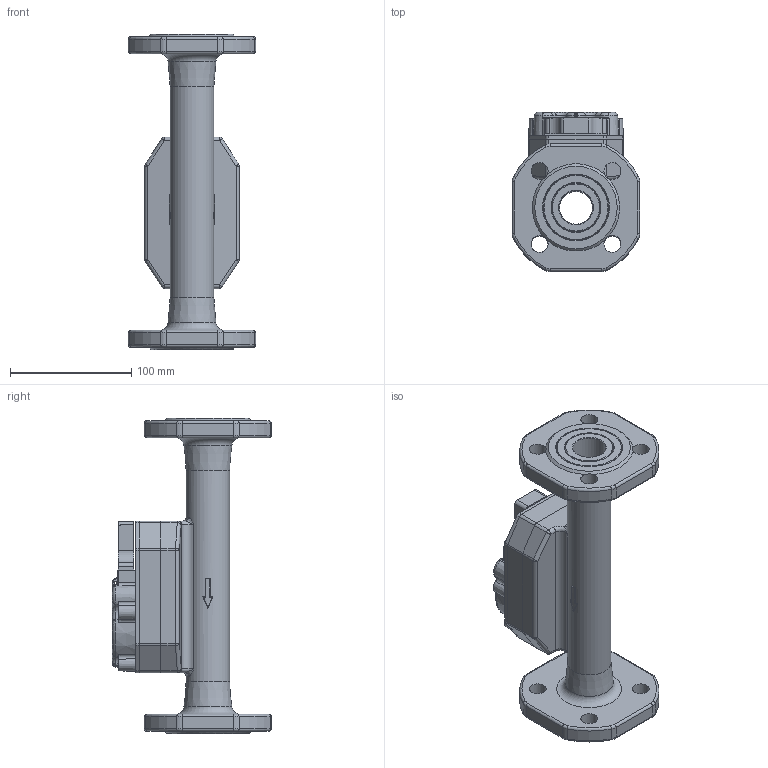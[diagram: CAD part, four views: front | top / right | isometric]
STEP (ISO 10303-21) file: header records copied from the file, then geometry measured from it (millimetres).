
FILE_DESCRIPTION( ( 'Unknown' ), '1' );
FILE_NAME( 'H:/440 pour vente_mai_2013/step_2/DN25_PN16-25_qp3.5-6_laiton_260mm.stp', 'Unknown', ( 'Unknown' ), ( 'Unknown' ), 'PSStep 15.0.49', 'Unknown', ' ' );
FILE_SCHEMA( ( 'AUTOMOTIVE_DESIGN { 1 0 10303 214 1 1 1 1 }' ) );
Length unit declared in the file: millimetre
Products named in the file (6): 440_tête_rempli; 0440P011_rempli; 0440P012_rempli; 0440P060_rempli; Assem1; 0440P416_rempli
Assembly tree (5 placements, depth 3):
  Assem1
    0440P416_rempli
    440_tête_rempli
      0440P011_rempli
      0440P012_rempli
      0440P060_rempli
Bounding box: 105 x 131.2 x 260 mm (x, y, z)
Volume: 812475.7 mm3; surface area: 178473.5 mm2
Topology: 4 solids, 9 shells, 423 faces, 1032 edges, 606 vertices
Faces by surface type: cylinder 134, plane 95, torus 95, cone 64, bspline 27, sphere 8
Full cylindrical faces by diameter (mm): 2.2 x1, 2.459 x2, 2.5 x1, 3.242 x4, 4.1 x1, 5 x1, 5.03 x1, 6.2 x6, 6.917 x2, 10.2 x2, 14 x8, 27 x1, 27.5 x2, 36 x1
Entity records: 20830 total; most frequent: CARTESIAN_POINT 7894, DIRECTION 2109, ORIENTED_EDGE 1826, EDGE_CURVE 913, AXIS2_PLACEMENT_3D 909, VERTEX_POINT 584, EDGE_LOOP 526, CIRCLE 506
